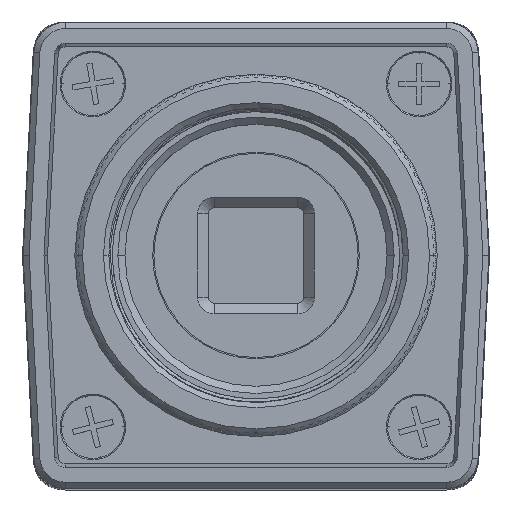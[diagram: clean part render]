
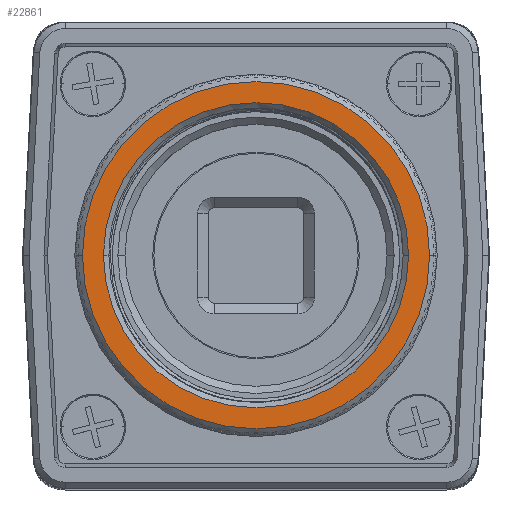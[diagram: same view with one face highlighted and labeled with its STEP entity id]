
A CAD part, top view. The second image highlights one B-rep face of the part: STEP entity #22861.
In plain terms, the highlighted planar face has unit normal (0, 0, 1).
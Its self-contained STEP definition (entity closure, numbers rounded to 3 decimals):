
#12252 = EDGE_CURVE ( 'NONE', #12320, #12370, #41212, .T. ) ;
#12320 = VERTEX_POINT ( 'NONE', #41507 ) ;
#12370 = VERTEX_POINT ( 'NONE', #42018 ) ;
#22791 = EDGE_CURVE ( 'NONE', #12370, #12320, #59643, .T. ) ;
#22793 = EDGE_LOOP ( 'NONE', ( #22794, #22823 ) ) ;
#22794 = ORIENTED_EDGE ( 'NONE', *, *, #22797, .F. ) ;
#22797 = EDGE_CURVE ( 'NONE', #31893, #31924, #59655, .T. ) ;
#22823 = ORIENTED_EDGE ( 'NONE', *, *, #31306, .F. ) ;
#22861 = ADVANCED_FACE ( 'NONE', ( #59877, #59871 ), #59870, .T. ) ;
#22862 = EDGE_LOOP ( 'NONE', ( #22864, #22868 ) ) ;
#22864 = ORIENTED_EDGE ( 'NONE', *, *, #12252, .F. ) ;
#22868 = ORIENTED_EDGE ( 'NONE', *, *, #22791, .F. ) ;
#25667 = AXIS2_PLACEMENT_3D ( 'NONE', #25871, #25876, #25874 ) ;
#25668 = CIRCLE ( 'NONE', #25667, 12.806 ) ;
#25871 = CARTESIAN_POINT ( 'NONE',  ( 0., 0., 40.258 ) ) ;
#25874 = DIRECTION ( 'NONE',  ( 1., 0., 0. ) ) ;
#25876 = DIRECTION ( 'NONE',  ( 0., 0., 1. ) ) ;
#26873 = CARTESIAN_POINT ( 'NONE',  ( -12.806, 0., 40.258 ) ) ;
#26946 = CARTESIAN_POINT ( 'NONE',  ( 12.806, 0., 40.258 ) ) ;
#31306 = EDGE_CURVE ( 'NONE', #31924, #31893, #25668, .T. ) ;
#31893 = VERTEX_POINT ( 'NONE', #26946 ) ;
#31924 = VERTEX_POINT ( 'NONE', #26873 ) ;
#41194 = DIRECTION ( 'NONE',  ( -1., 0., 0. ) ) ;
#41196 = DIRECTION ( 'NONE',  ( 0., 0., -1. ) ) ;
#41198 = CARTESIAN_POINT ( 'NONE',  ( 0., 0., 40.258 ) ) ;
#41199 = AXIS2_PLACEMENT_3D ( 'NONE', #41198, #41196, #41194 ) ;
#41212 = CIRCLE ( 'NONE', #41199, 14.575 ) ;
#41507 = CARTESIAN_POINT ( 'NONE',  ( -14.575, 0., 40.258 ) ) ;
#42018 = CARTESIAN_POINT ( 'NONE',  ( 14.575, 0., 40.258 ) ) ;
#59641 = CARTESIAN_POINT ( 'NONE',  ( 0., 0., 40.258 ) ) ;
#59642 = AXIS2_PLACEMENT_3D ( 'NONE', #59641, #59658, #59657 ) ;
#59643 = CIRCLE ( 'NONE', #59642, 14.575 ) ;
#59644 = CARTESIAN_POINT ( 'NONE',  ( 0., 0., 40.258 ) ) ;
#59652 = DIRECTION ( 'NONE',  ( 1., 0., 0. ) ) ;
#59653 = DIRECTION ( 'NONE',  ( 0., 0., 1. ) ) ;
#59654 = AXIS2_PLACEMENT_3D ( 'NONE', #59644, #59653, #59652 ) ;
#59655 = CIRCLE ( 'NONE', #59654, 12.806 ) ;
#59657 = DIRECTION ( 'NONE',  ( -1., 0., 0. ) ) ;
#59658 = DIRECTION ( 'NONE',  ( 0., 0., -1. ) ) ;
#59726 = DIRECTION ( 'NONE',  ( 1., 0., 0. ) ) ;
#59727 = DIRECTION ( 'NONE',  ( 0., 0., 1. ) ) ;
#59728 = CARTESIAN_POINT ( 'NONE',  ( 0., 14.575, 40.258 ) ) ;
#59729 = AXIS2_PLACEMENT_3D ( 'NONE', #59728, #59727, #59726 ) ;
#59870 = PLANE ( 'NONE',  #59729 ) ;
#59871 = FACE_BOUND ( 'NONE', #22793, .T. ) ;
#59877 = FACE_OUTER_BOUND ( 'NONE', #22862, .T. ) ;
